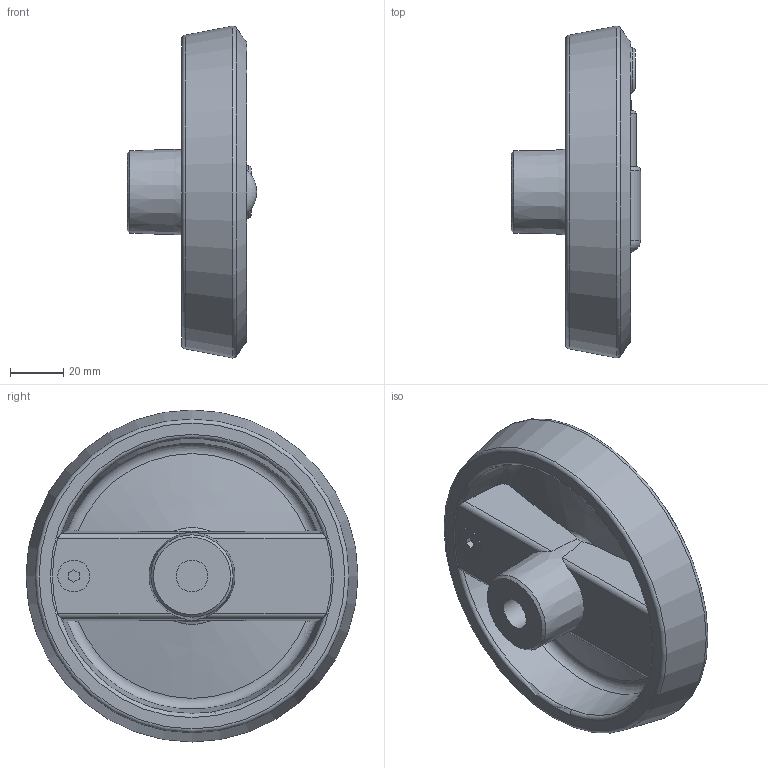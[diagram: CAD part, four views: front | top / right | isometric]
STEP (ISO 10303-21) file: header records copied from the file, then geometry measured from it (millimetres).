
FILE_DESCRIPTION( ( 'STEP AP203' ), '1' );
FILE_NAME( 'C:/Temp/Ganter_Step_05_03_2020/data/1_3/gn_923_7/gn_923_7_b/Handwheel with retractable handle GN 923.7-125-B12-R-SW (unactivated).stp', '2020-03-05T10:39:54', ( 'License CC BY-ND 4.0' ), ( 'CADENAS' ), ' ', 'PARTsolutions', ' ' );
FILE_SCHEMA( ( 'CONFIG_CONTROL_DESIGN' ) );
Length unit declared in the file: millimetre
Products named in the file (3): Handwheel with retractable handle GN 923.7-125-B12-R-SW (unactivated); _Umleggriff-Handrad GN 923.7-125-B12-R-SW-1; _Umleggriff-Handrad GN 923.7-125-B12-R-SW (0)-2
Assembly tree (2 placements, depth 2):
  Handwheel with retractable handle GN 923.7-125-B12-R-SW (unactivated)
    _Umleggriff-Handrad GN 923.7-125-B12-R-SW-1
    _Umleggriff-Handrad GN 923.7-125-B12-R-SW (0)-2
Bounding box: 48.7 x 125 x 125 mm (x, y, z)
Volume: 171877.5 mm3; surface area: 53833.9 mm2
Topology: 2 solids, 2 shells, 108 faces, 259 edges, 163 vertices
Faces by surface type: plane 44, cylinder 26, cone 15, torus 15, bspline 6, sphere 2
Full cylindrical faces by diameter (mm): 4 x2, 6 x1, 8 x1, 12 x2, 15 x1, 18.5 x1, 20 x1, 22 x1, 23 x2
Entity records: 3422 total; most frequent: CARTESIAN_POINT 975, DIRECTION 496, ORIENTED_EDGE 446, EDGE_CURVE 223, AXIS2_PLACEMENT_3D 212, VERTEX_POINT 157, EDGE_LOOP 147, FACE_OUTER_BOUND 127
